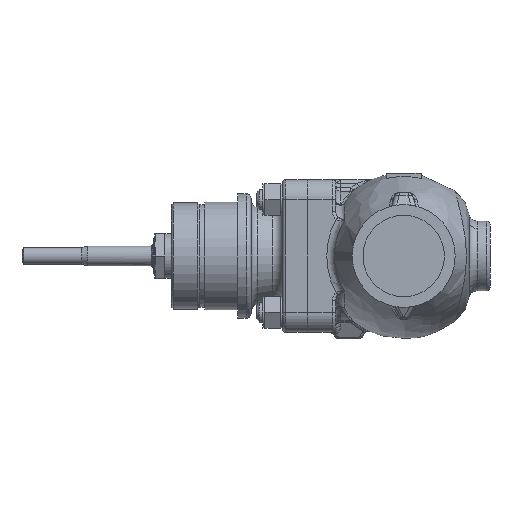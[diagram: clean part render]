
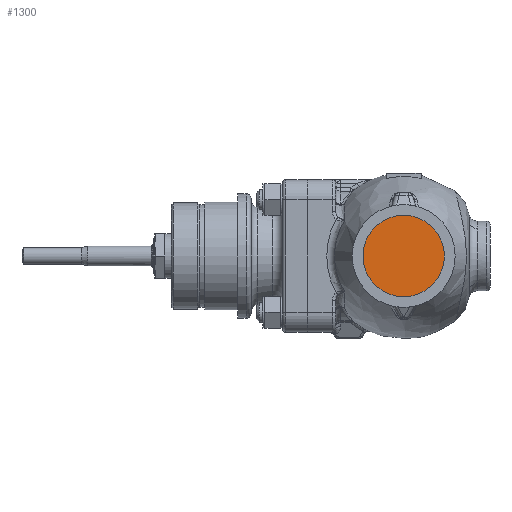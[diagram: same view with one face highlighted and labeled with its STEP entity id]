
A CAD part, left-side view. The second image highlights one B-rep face of the part: STEP entity #1300.
In plain terms, the highlighted planar face has unit normal (-1, 0, 0).
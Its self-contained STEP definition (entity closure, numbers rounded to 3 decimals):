
#467=FACE_OUTER_BOUND('',#2054,.T.);
#1300=ADVANCED_FACE('',(#467),#1529,.F.);
#1529=PLANE('',#6545);
#2054=EDGE_LOOP('',(#3754));
#3754=ORIENTED_EDGE('',*,*,#5450,.T.);
#4707=VERTEX_POINT('',#12203);
#5450=EDGE_CURVE('',#4707,#4707,#5984,.T.);
#5984=CIRCLE('',#6544,24.5);
#6544=AXIS2_PLACEMENT_3D('',#12202,#7828,#7829);
#6545=AXIS2_PLACEMENT_3D('',#12204,#7830,#7831);
#7828=DIRECTION('',(-1.,0.,0.));
#7829=DIRECTION('',(0.,0.,-1.));
#7830=DIRECTION('',(1.,0.,0.));
#7831=DIRECTION('',(0.,0.,-1.));
#12202=CARTESIAN_POINT('',(-113.,0.,0.));
#12203=CARTESIAN_POINT('',(-113.,0.,-24.5));
#12204=CARTESIAN_POINT('',(-113.,0.,0.));
